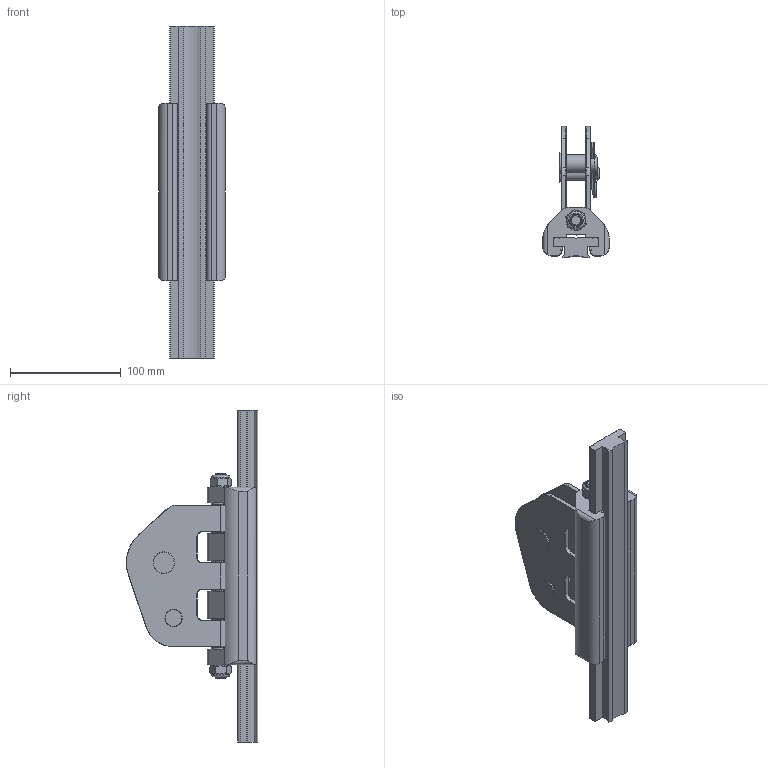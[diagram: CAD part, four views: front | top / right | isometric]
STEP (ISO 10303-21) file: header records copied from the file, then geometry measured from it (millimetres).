
FILE_DESCRIPTION(/* description */ (''),/* implementation_level */ '2;1');
FILE_NAME(/* name */ '\\SERVER2K12\Disegni CAD\Cad Library\3D - STP\Cars\Ttrack\672.003.stp',/* time_stamp */ '2020-07-07T11:15:49+02:00',/* author */ ('francesca'),/* organization */ (''),/* preprocessor_version */ 'ST-DEVELOPER v18.1',/* originating_system */ 'Autodesk Inventor 2021',/* authorisation */ '');
FILE_SCHEMA (('AUTOMOTIVE_DESIGN { 1 0 10303 214 3 1 1 }'));
Length unit declared in the file: millimetre
Products named in the file (1): 672.003
Bounding box: 60 x 118.86 x 300 mm (x, y, z)
Volume: 440941.7 mm3; surface area: 129955.4 mm2
Topology: 3 solids, 3 shells, 446 faces, 1224 edges, 815 vertices
Faces by surface type: plane 182, cylinder 176, torus 56, cone 30, bspline 2
Full cylindrical faces by diameter (mm): 4 x1, 10 x5, 10.7 x3, 11.2 x2, 11.85 x1, 12 x2, 15.65 x1, 15.85 x1, 16.2 x2, 16.5 x2, 17 x6, 17.5 x3, 18 x2, 19.65 x1
Entity records: 15372 total; most frequent: CARTESIAN_POINT 3846, DIRECTION 2448, ORIENTED_EDGE 2394, EDGE_CURVE 1197, AXIS2_PLACEMENT_3D 916, VERTEX_POINT 759, LINE 616, VECTOR 616
